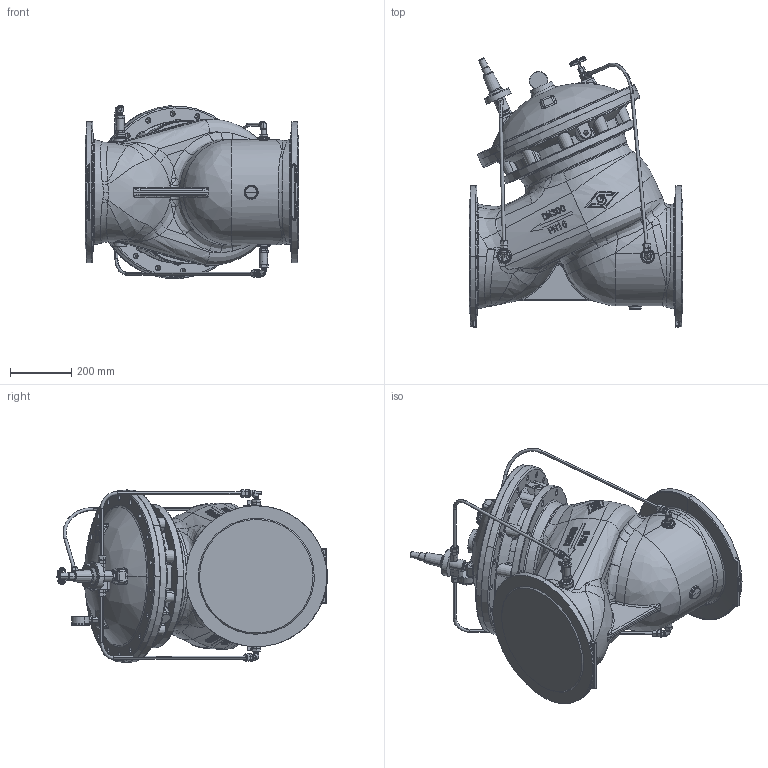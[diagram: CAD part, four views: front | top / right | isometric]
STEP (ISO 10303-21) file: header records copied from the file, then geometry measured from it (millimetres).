
FILE_DESCRIPTION (( 'STEP AP214' ), '1' );
FILE_NAME ('922sk730XB300-46-0-ESX.STEP', '2024-04-02T06:45:16', ( '' ), ( '' ), 'SwSTEP 2.0', 'SolidWorks 2018', '' );
FILE_SCHEMA (( 'AUTOMOTIVE_DESIGN' ));
Length unit declared in the file: millimetre
Products named in the file (1): 922sk730XB300-46-0-ESX
Bounding box: 698 x 881.88 x 564.91 mm (x, y, z)
Surface area: 3321788.1 mm2 (no closed solid volume)
Topology: 0 solids, 28 shells, 3340 faces, 8696 edges, 5499 vertices
Faces by surface type: plane 1433, bspline 1035, cylinder 486, cone 332, torus 52, sphere 2
Entity records: 267255 total; most frequent: CARTESIAN_POINT 157509, ORIENTED_EDGE 17258, DIRECTION 11352, EDGE_CURVE 8648, VERTEX_POINT 5498, VECTOR 3846, LINE 3846, AXIS2_PLACEMENT_3D 3753
